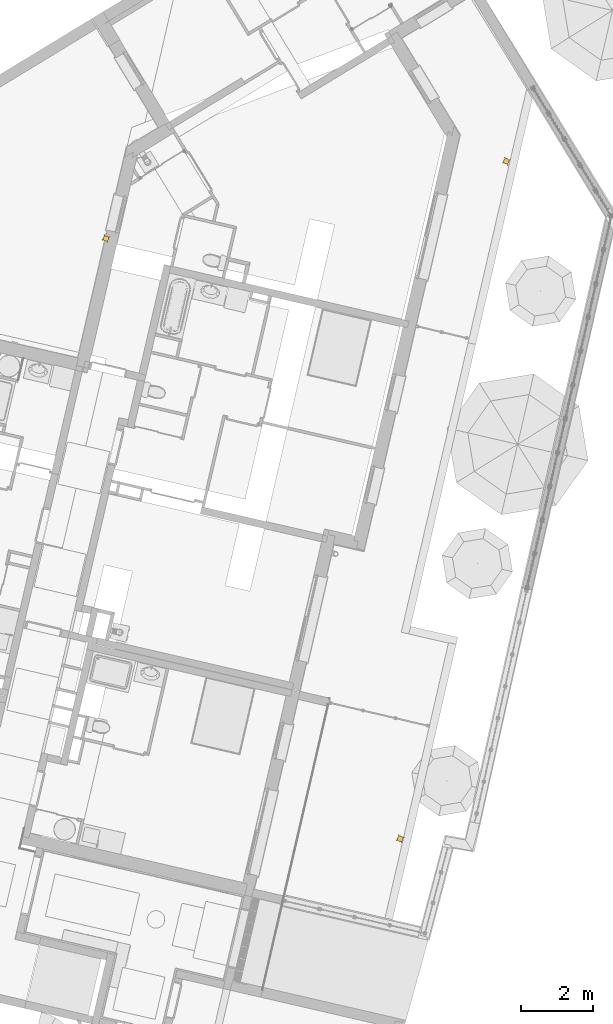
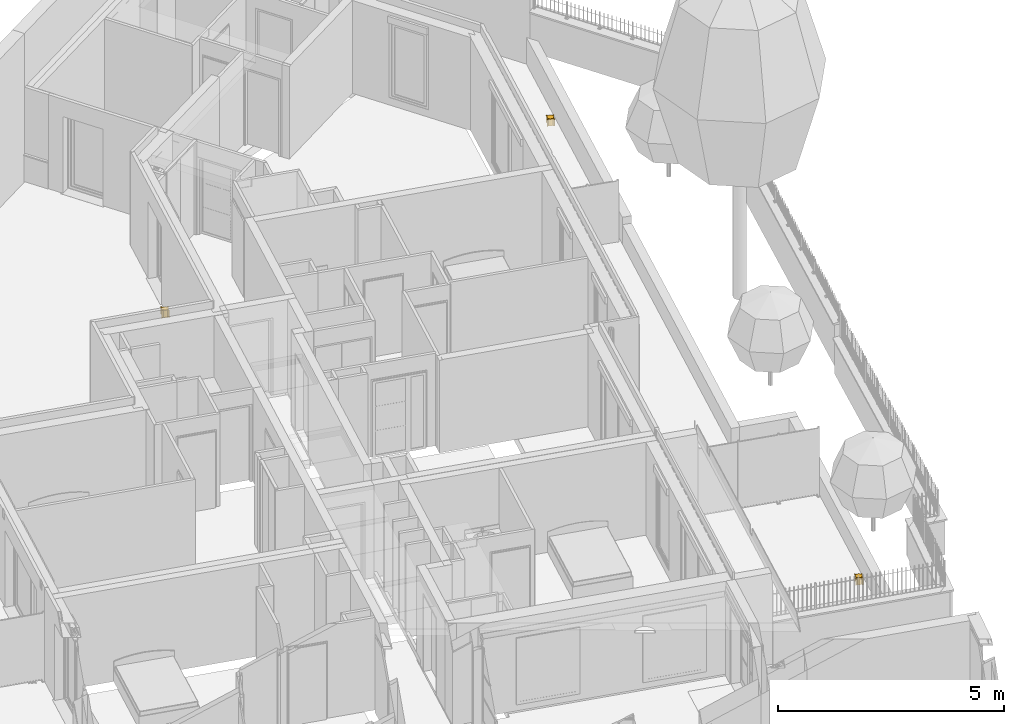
# One storey, part 67 of 119: 3 coverings.
"""IFC2X3 building model written with IfcOpenShell, lengths in metres."""

from ifc_helpers import new_model, entity, si_unit, converted_unit, derived_unit, money_unit, direction, frame, origin_with_axes, place, context, subcontext, project, spatial, faceted_brep, source, transform, mapped, material, type_object, element, save


model = new_model("IFC2X3")

# Units and contexts
model_context = context("Model", 3, precision=1e-05, world=origin_with_axes(), true_north=direction((0.0, 1.0)))
body_context = subcontext(model_context, "Body", "Model", "MODEL_VIEW")
ifc_project = project(units=[si_unit("LENGTHUNIT", "METRE"), si_unit("AREAUNIT", "SQUARE_METRE"), si_unit("VOLUMEUNIT", "CUBIC_METRE"), converted_unit("PLANEANGLEUNIT", "DEGREE", entity("IfcPlaneAngleMeasure", 0.0174532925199), si_unit("PLANEANGLEUNIT", "RADIAN"), dimensions=[0, 0, 0, 0, 0, 0, 0]), si_unit("SOLIDANGLEUNIT", "STERADIAN"), money_unit("EUR"), converted_unit("TIMEUNIT", "Year", entity("IfcTimeMeasure", 31556926.0), si_unit("TIMEUNIT", "SECOND"), dimensions=[0, 0, 1, 0, 0, 0, 0]), si_unit("MASSUNIT", "GRAM", prefix="KILO"), si_unit("THERMODYNAMICTEMPERATUREUNIT", "DEGREE_CELSIUS"), si_unit("LUMINOUSINTENSITYUNIT", "LUMEN"), si_unit("ENERGYUNIT", "JOULE", prefix="MEGA"), derived_unit("THERMALCONDUCTANCEUNIT", [(si_unit("POWERUNIT", "WATT"), 1), (si_unit("LENGTHUNIT", "METRE"), -1), (si_unit("THERMODYNAMICTEMPERATUREUNIT", "KELVIN"), -1)]), derived_unit("SPECIFICHEATCAPACITYUNIT", [(si_unit("ENERGYUNIT", "JOULE"), 1), (si_unit("MASSUNIT", "GRAM", prefix="KILO"), -1), (si_unit("THERMODYNAMICTEMPERATUREUNIT", "KELVIN"), -1)]), derived_unit("MASSDENSITYUNIT", [(si_unit("MASSUNIT", "GRAM", prefix="KILO"), 1), (si_unit("VOLUMEUNIT", "CUBIC_METRE"), -1)])], contexts=[model_context])

# Site, building, storey
site_placement = place(None, origin_with_axes())
site = spatial("IfcSite", under=ifc_project, at=site_placement, Name="Site", CompositionType="ELEMENT")
building_placement = place(site_placement, origin_with_axes())
building = spatial("IfcBuilding", under=site, at=building_placement, Name="Bâtiment", CompositionType="ELEMENT")
storey_placement = place(building_placement, origin_with_axes())
storey = spatial("IfcBuildingStorey", under=building, at=storey_placement, Name="Rez-de-chaussée", CompositionType="ELEMENT", Elevation=0.0)

# Coverings
ifc_material = material(Name="Volume - Etude")
covering_type = type_object("IfcCoveringType", Name="Evacuation EP terrasse", PredefinedType="FLOORING")
shared_shape = source(origin_with_axes(), body_context, "Body", "Brep", [
    faceted_brep([(0.0522327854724, 0.0878658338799, 0.2), (0.0522327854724, 0.0878658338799, 0.0), (0.058702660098, 0.0767838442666, 0.0), (0.058702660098, 0.0767838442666, 0.2), (0.0477467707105, 0.0998885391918, 0.2), (0.0477467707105, 0.0998885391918, 0.0), (0.045375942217, 0.1125, 0.0), (0.0, 0.1125, 0.0), (0.0, 0.1275, 0.0), (0.045375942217, 0.1275, 0.0), (0.0477467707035, 0.140111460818, 0.0), (0.0522327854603, 0.15213416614, 0.0), (0.0587026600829, 0.163216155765, 0.0), (0.066966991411, 0.173033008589, 0.0), (0.0767838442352, 0.181297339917, 0.0), (0.0878658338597, 0.18776721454, 0.0), (0.0998885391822, 0.192253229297, 0.0), (0.1125, 0.194624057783, 0.0), (0.1125, 0.24, 0.0), (0.1275, 0.24, 0.0), (0.1275, 0.194624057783, 0.0), (0.140111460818, 0.192253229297, 0.0), (0.15213416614, 0.18776721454, 0.0), (0.163216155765, 0.181297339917, 0.0), (0.173033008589, 0.173033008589, 0.0), (0.181297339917, 0.163216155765, 0.0), (0.18776721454, 0.15213416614, 0.0), (0.192253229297, 0.140111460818, 0.0), (0.194624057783, 0.1275, 0.0), (0.24, 0.1275, 0.0), (0.24, 0.1125, 0.0), (0.194624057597, 0.1125, 0.0), (0.192253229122, 0.099888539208, 0.0), (0.187767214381, 0.0878658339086, 0.0), (0.181297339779, 0.0767838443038, 0.0), (0.173033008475, 0.0669669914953, 0.0), (0.163216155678, 0.058702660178, 0.0), (0.152134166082, 0.0522327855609, 0.0), (0.140111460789, 0.0477467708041, 0.0), (0.1275, 0.045375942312, 0.0), (0.1275, 0.0, 0.0), (0.1125, 0.0, 0.0), (0.1125, 0.0453759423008, 0.0), (0.0998885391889, 0.0477467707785, 0.0), (0.0878658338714, 0.0522327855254, 0.0), (0.07678384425, 0.0587026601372, 0.0), (0.066966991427, 0.066966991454, 0.0), (0.066966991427, 0.066966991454, 0.2), (0.07678384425, 0.0587026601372, 0.2), (0.0878658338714, 0.0522327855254, 0.2), (0.0998885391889, 0.0477467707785, 0.2), (0.1125, 0.0453759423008, 0.2), (0.1125, 0.0, 0.2), (0.1275, 0.0, 0.2), (0.1275, 0.045375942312, 0.2), (0.140111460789, 0.0477467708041, 0.2), (0.152134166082, 0.0522327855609, 0.2), (0.163216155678, 0.058702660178, 0.2), (0.173033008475, 0.0669669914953, 0.2), (0.181297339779, 0.0767838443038, 0.2), (0.187767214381, 0.0878658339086, 0.2), (0.192253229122, 0.099888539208, 0.2), (0.194624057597, 0.1125, 0.2), (0.24, 0.1125, 0.2), (0.24, 0.1275, 0.2), (0.194624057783, 0.1275, 0.2), (0.192253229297, 0.140111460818, 0.2), (0.18776721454, 0.15213416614, 0.2), (0.181297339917, 0.163216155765, 0.2), (0.173033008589, 0.173033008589, 0.2), (0.163216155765, 0.181297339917, 0.2), (0.15213416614, 0.18776721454, 0.2), (0.140111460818, 0.192253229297, 0.2), (0.1275, 0.194624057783, 0.2), (0.1275, 0.24, 0.2), (0.1125, 0.24, 0.2), (0.1125, 0.194624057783, 0.2), (0.0998885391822, 0.192253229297, 0.2), (0.0878658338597, 0.18776721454, 0.2), (0.0767838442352, 0.181297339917, 0.2), (0.066966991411, 0.173033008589, 0.2), (0.0587026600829, 0.163216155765, 0.2), (0.0522327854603, 0.15213416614, 0.2), (0.0477467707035, 0.140111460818, 0.2), (0.045375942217, 0.1275, 0.2), (0.0, 0.1275, 0.2), (0.0, 0.1125, 0.2), (0.045375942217, 0.1125, 0.2)], [[[0, 1, 2, 3]], [[4, 5, 1, 0]], [[1, 5, 6, 7, 8, 9, 10, 11, 12, 13, 14, 15, 16, 17, 18, 19, 20, 21, 22, 23, 24, 25, 26, 27, 28, 29, 30, 31, 32, 33, 34, 35, 36, 37, 38, 39, 40, 41, 42, 43, 44, 45, 46, 2]], [[46, 47, 3, 2]], [[4, 0, 3, 47, 48, 49, 50, 51, 52, 53, 54, 55, 56, 57, 58, 59, 60, 61, 62, 63, 64, 65, 66, 67, 68, 69, 70, 71, 72, 73, 74, 75, 76, 77, 78, 79, 80, 81, 82, 83, 84, 85, 86, 87]], [[5, 4, 87, 6]], [[87, 86, 7, 6]], [[86, 85, 8, 7]], [[9, 8, 85, 84]], [[9, 84, 83, 10]], [[82, 11, 10, 83]], [[11, 82, 81, 12]], [[12, 81, 80, 13]], [[13, 80, 79, 14]], [[14, 79, 78, 15]], [[15, 78, 77, 16]], [[16, 77, 76, 17]], [[76, 75, 18, 17]], [[75, 74, 19, 18]], [[73, 20, 19, 74]], [[72, 21, 20, 73]], [[21, 72, 71, 22]], [[22, 71, 70, 23]], [[23, 70, 69, 24]], [[24, 69, 68, 25]], [[67, 26, 25, 68]], [[66, 27, 26, 67]], [[66, 65, 28, 27]], [[29, 28, 65, 64]], [[64, 63, 30, 29]], [[62, 31, 30, 63]], [[61, 32, 31, 62]], [[60, 33, 32, 61]], [[59, 34, 33, 60]], [[58, 35, 34, 59]], [[57, 36, 35, 58]], [[56, 37, 36, 57]], [[55, 38, 37, 56]], [[39, 38, 55, 54]], [[53, 40, 39, 54]], [[52, 41, 40, 53]], [[51, 42, 41, 52]], [[42, 51, 50, 43]], [[49, 44, 43, 50]], [[44, 49, 48, 45]], [[47, 46, 45, 48]]]),
])
for number, where, z_axis, x_axis, name in (
    (1, (0.566211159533, -1.43321056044, 0.0), (0.0, 0.0, 1.0), (0.383112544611, -0.923701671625, 0.0), "MOB-004"),
    (2, (-7.578206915, 15.1753160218, 0.0), (0.0, 0.0, 1.0), (0.383112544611, -0.923701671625, 0.0), "MOB-004"),
    (3, (3.50456105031, 17.3134191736, 0.0), (0.0, 0.0, 1.0), (0.383112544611, -0.923701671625, 0.0), "MOB-004"),
):
    element("IfcCovering", number, at=place(storey_placement, frame(where, z_axis=z_axis, x_axis=x_axis)), inside=storey, type_object=covering_type, material=ifc_material, Name=name, PredefinedType="FLOORING", context=body_context, shape_type="MappedRepresentation", body=[
        mapped(shared_shape, transform((0.0, 0.0, 0.0))),
    ])

save(model, "model.ifc")
